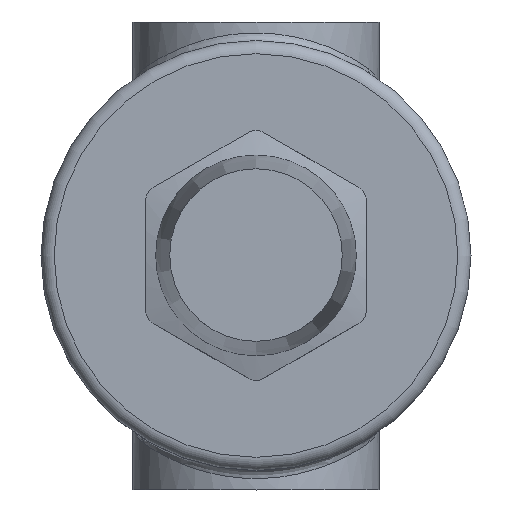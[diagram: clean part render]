
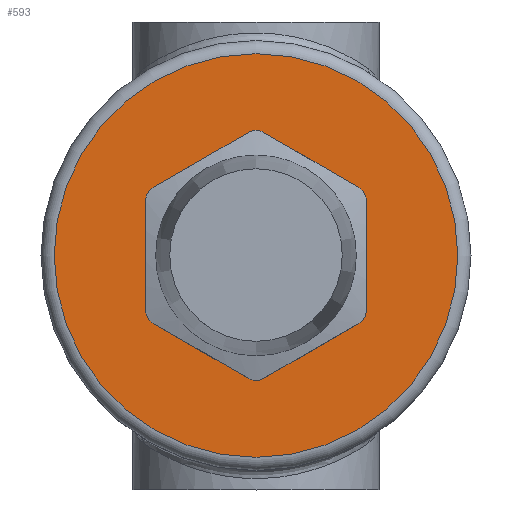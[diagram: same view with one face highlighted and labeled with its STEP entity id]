
A CAD part, top view. The second image highlights one B-rep face of the part: STEP entity #593.
In plain terms, the highlighted planar face has unit normal (0, 0, 1).
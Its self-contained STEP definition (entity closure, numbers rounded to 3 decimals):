
#593=ADVANCED_FACE('',(#5902,#5904),#5906,.T.);
#5902=FACE_BOUND('',#5903,.T.);
#5903=EDGE_LOOP('',(#10313));
#5904=FACE_BOUND('',#5905,.T.);
#5905=EDGE_LOOP('',(#10314,#10315,#10316,#10317,#10318,#10319,#10320,#10321,#10322,
#10323,#10324,#10325));
#5906=PLANE('',#5907);
#5907=AXIS2_PLACEMENT_3D('',#5908,#5909,#5910);
#5908=CARTESIAN_POINT('',(0.,0.,63.5));
#5909=DIRECTION('',(0.,0.,1.));
#5910=DIRECTION('',(0.,1.,0.));
#10313=ORIENTED_EDGE('',*,*,#11844,.T.);
#10314=ORIENTED_EDGE('',*,*,#11873,.F.);
#10315=ORIENTED_EDGE('',*,*,#11874,.F.);
#10316=ORIENTED_EDGE('',*,*,#11875,.F.);
#10317=ORIENTED_EDGE('',*,*,#11876,.F.);
#10318=ORIENTED_EDGE('',*,*,#11877,.F.);
#10319=ORIENTED_EDGE('',*,*,#11878,.F.);
#10320=ORIENTED_EDGE('',*,*,#11879,.F.);
#10321=ORIENTED_EDGE('',*,*,#11880,.F.);
#10322=ORIENTED_EDGE('',*,*,#11881,.F.);
#10323=ORIENTED_EDGE('',*,*,#11882,.F.);
#10324=ORIENTED_EDGE('',*,*,#11883,.F.);
#10325=ORIENTED_EDGE('',*,*,#11884,.F.);
#11844=EDGE_CURVE('',#14280,#14280,#14281,.T.);
#11873=EDGE_CURVE('',#14326,#14327,#14328,.F.);
#11874=EDGE_CURVE('',#14329,#14326,#14330,.T.);
#11875=EDGE_CURVE('',#14331,#14329,#14332,.F.);
#11876=EDGE_CURVE('',#14333,#14331,#14334,.T.);
#11877=EDGE_CURVE('',#14335,#14333,#14336,.F.);
#11878=EDGE_CURVE('',#14337,#14335,#14338,.T.);
#11879=EDGE_CURVE('',#14339,#14337,#14340,.F.);
#11880=EDGE_CURVE('',#14341,#14339,#14342,.T.);
#11881=EDGE_CURVE('',#14343,#14341,#14344,.F.);
#11882=EDGE_CURVE('',#14345,#14343,#14346,.T.);
#11883=EDGE_CURVE('',#14347,#14345,#14348,.F.);
#11884=EDGE_CURVE('',#14327,#14347,#14349,.T.);
#14280=VERTEX_POINT('',#21726);
#14281=CIRCLE('',#21727,45.75);
#14326=VERTEX_POINT('',#22067);
#14327=VERTEX_POINT('',#22068);
#14328=CIRCLE('',#22069,3.5);
#14329=VERTEX_POINT('',#22073);
#14330=LINE('',#22074,#22075);
#14331=VERTEX_POINT('',#22077);
#14332=CIRCLE('',#22078,3.5);
#14333=VERTEX_POINT('',#22082);
#14334=LINE('',#22083,#22084);
#14335=VERTEX_POINT('',#22086);
#14336=CIRCLE('',#22087,3.5);
#14337=VERTEX_POINT('',#22091);
#14338=LINE('',#22092,#22093);
#14339=VERTEX_POINT('',#22095);
#14340=CIRCLE('',#22096,3.5);
#14341=VERTEX_POINT('',#22100);
#14342=LINE('',#22101,#22102);
#14343=VERTEX_POINT('',#22104);
#14344=CIRCLE('',#22105,3.5);
#14345=VERTEX_POINT('',#22109);
#14346=LINE('',#22110,#22111);
#14347=VERTEX_POINT('',#22113);
#14348=CIRCLE('',#22114,3.5);
#14349=LINE('',#22118,#22119);
#21726=CARTESIAN_POINT('',(0.,45.75,63.5));
#21727=AXIS2_PLACEMENT_3D('',#21728,#21729,#21730);
#21728=CARTESIAN_POINT('',(0.,0.,63.5));
#21729=DIRECTION('',(0.,0.,1.));
#21730=DIRECTION('',(0.,1.,0.));
#22067=CARTESIAN_POINT('',(-25.,-12.413,63.5));
#22068=CARTESIAN_POINT('',(-23.25,-15.444,63.5));
#22069=AXIS2_PLACEMENT_3D('',#22070,#22071,#22072);
#22070=CARTESIAN_POINT('',(-21.5,-12.413,63.5));
#22071=DIRECTION('',(0.,0.,-1.));
#22072=DIRECTION('',(-0.5,-0.866,0.));
#22073=CARTESIAN_POINT('',(-25.,12.413,63.5));
#22074=CARTESIAN_POINT('',(-25.,12.413,63.5));
#22075=VECTOR('',#22076,1.);
#22076=DIRECTION('',(0.,-1.,0.));
#22077=CARTESIAN_POINT('',(-23.25,15.444,63.5));
#22078=AXIS2_PLACEMENT_3D('',#22079,#22080,#22081);
#22079=CARTESIAN_POINT('',(-21.5,12.413,63.5));
#22080=DIRECTION('',(0.,0.,-1.));
#22081=DIRECTION('',(-1.,0.,0.));
#22082=CARTESIAN_POINT('',(-1.75,27.857,63.5));
#22083=CARTESIAN_POINT('',(-1.75,27.857,63.5));
#22084=VECTOR('',#22085,1.);
#22085=DIRECTION('',(-0.866,-0.5,0.));
#22086=CARTESIAN_POINT('',(1.75,27.857,63.5));
#22087=AXIS2_PLACEMENT_3D('',#22088,#22089,#22090);
#22088=CARTESIAN_POINT('',(0.,24.826,63.5));
#22089=DIRECTION('',(0.,0.,-1.));
#22090=DIRECTION('',(-0.5,0.866,0.));
#22091=CARTESIAN_POINT('',(23.25,15.444,63.5));
#22092=CARTESIAN_POINT('',(23.25,15.444,63.5));
#22093=VECTOR('',#22094,1.);
#22094=DIRECTION('',(-0.866,0.5,0.));
#22095=CARTESIAN_POINT('',(25.,12.413,63.5));
#22096=AXIS2_PLACEMENT_3D('',#22097,#22098,#22099);
#22097=CARTESIAN_POINT('',(21.5,12.413,63.5));
#22098=DIRECTION('',(0.,0.,-1.));
#22099=DIRECTION('',(0.5,0.866,0.));
#22100=CARTESIAN_POINT('',(25.,-12.413,63.5));
#22101=CARTESIAN_POINT('',(25.,-12.413,63.5));
#22102=VECTOR('',#22103,1.);
#22103=DIRECTION('',(0.,1.,0.));
#22104=CARTESIAN_POINT('',(23.25,-15.444,63.5));
#22105=AXIS2_PLACEMENT_3D('',#22106,#22107,#22108);
#22106=CARTESIAN_POINT('',(21.5,-12.413,63.5));
#22107=DIRECTION('',(0.,0.,-1.));
#22108=DIRECTION('',(1.,0.,0.));
#22109=CARTESIAN_POINT('',(1.75,-27.857,63.5));
#22110=CARTESIAN_POINT('',(1.75,-27.857,63.5));
#22111=VECTOR('',#22112,1.);
#22112=DIRECTION('',(0.866,0.5,0.));
#22113=CARTESIAN_POINT('',(-1.75,-27.857,63.5));
#22114=AXIS2_PLACEMENT_3D('',#22115,#22116,#22117);
#22115=CARTESIAN_POINT('',(0.,-24.826,63.5));
#22116=DIRECTION('',(0.,0.,-1.));
#22117=DIRECTION('',(0.5,-0.866,0.));
#22118=CARTESIAN_POINT('',(-23.25,-15.444,63.5));
#22119=VECTOR('',#22120,1.);
#22120=DIRECTION('',(0.866,-0.5,0.));
